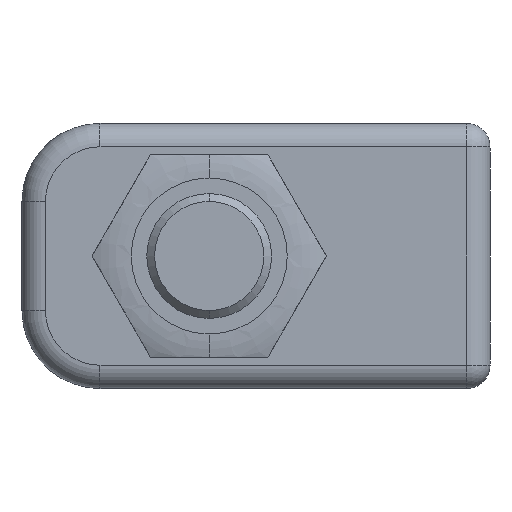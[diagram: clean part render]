
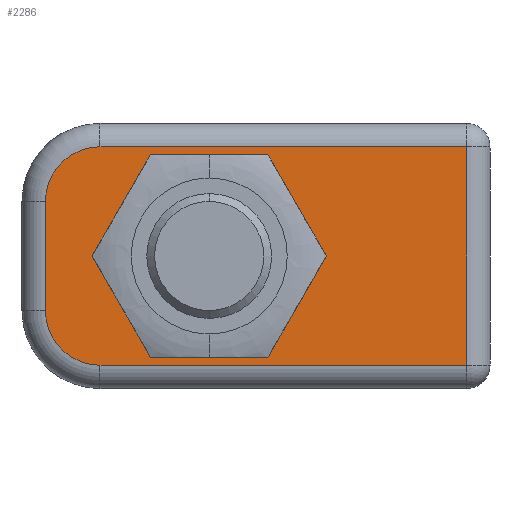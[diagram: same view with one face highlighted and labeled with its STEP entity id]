
A CAD part, front view. The second image highlights one B-rep face of the part: STEP entity #2286.
In plain terms, the highlighted planar face has unit normal (0, -1, 0).
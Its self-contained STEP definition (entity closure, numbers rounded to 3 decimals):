
#82 = DIRECTION ( 'NONE',  ( 0., 0., -1. ) ) ;
#96 = ORIENTED_EDGE ( 'NONE', *, *, #685, .T. ) ;
#108 = CARTESIAN_POINT ( 'NONE',  ( 0., -9.41, 0. ) ) ;
#122 = CIRCLE ( 'NONE', #236, 3.5 ) ;
#231 = DIRECTION ( 'NONE',  ( 0., 0., -1. ) ) ;
#236 = AXIS2_PLACEMENT_3D ( 'NONE', #2130, #2354, #231 ) ;
#313 = DIRECTION ( 'NONE',  ( -1., 0., 0. ) ) ;
#336 = VERTEX_POINT ( 'NONE', #948 ) ;
#355 = ORIENTED_EDGE ( 'NONE', *, *, #1317, .T. ) ;
#459 = DIRECTION ( 'NONE',  ( 1., 0., 0. ) ) ;
#533 = AXIS2_PLACEMENT_3D ( 'NONE', #2698, #1635, #993 ) ;
#578 = ORIENTED_EDGE ( 'NONE', *, *, #768, .T. ) ;
#612 = LINE ( 'NONE', #2369, #2249 ) ;
#649 = VERTEX_POINT ( 'NONE', #952 ) ;
#668 = PLANE ( 'NONE',  #912 ) ;
#685 = EDGE_CURVE ( 'NONE', #1975, #968, #1828, .T. ) ;
#698 = EDGE_LOOP ( 'NONE', ( #1771, #96 ) ) ;
#738 = CARTESIAN_POINT ( 'NONE',  ( 0., -9.41, 0. ) ) ;
#756 = EDGE_CURVE ( 'NONE', #1055, #1542, #1858, .T. ) ;
#768 = EDGE_CURVE ( 'NONE', #336, #649, #880, .T. ) ;
#880 = CIRCLE ( 'NONE', #533, 3.5 ) ;
#912 = AXIS2_PLACEMENT_3D ( 'NONE', #1968, #1090, #2617 ) ;
#921 = DIRECTION ( 'NONE',  ( 0., 1., 0. ) ) ;
#948 = CARTESIAN_POINT ( 'NONE',  ( -10.5, -9.41, -3.5 ) ) ;
#952 = CARTESIAN_POINT ( 'NONE',  ( -7., -9.41, -7. ) ) ;
#963 = VERTEX_POINT ( 'NONE', #2712 ) ;
#968 = VERTEX_POINT ( 'NONE', #1662 ) ;
#993 = DIRECTION ( 'NONE',  ( 0., 0., -1. ) ) ;
#1055 = VERTEX_POINT ( 'NONE', #1491 ) ;
#1059 = AXIS2_PLACEMENT_3D ( 'NONE', #738, #921, #82 ) ;
#1090 = DIRECTION ( 'NONE',  ( 0., -1., 0. ) ) ;
#1191 = VERTEX_POINT ( 'NONE', #2600 ) ;
#1192 = EDGE_CURVE ( 'NONE', #1542, #1191, #122, .T. ) ;
#1230 = VECTOR ( 'NONE', #313, 1000. ) ;
#1242 = ORIENTED_EDGE ( 'NONE', *, *, #756, .T. ) ;
#1317 = EDGE_CURVE ( 'NONE', #1191, #336, #2215, .T. ) ;
#1357 = CARTESIAN_POINT ( 'NONE',  ( -7., -9.41, 7. ) ) ;
#1491 = CARTESIAN_POINT ( 'NONE',  ( 16.5, -9.41, 7. ) ) ;
#1542 = VERTEX_POINT ( 'NONE', #2660 ) ;
#1569 = DIRECTION ( 'NONE',  ( 0., 0., -1. ) ) ;
#1603 = VECTOR ( 'NONE', #1748, 1000. ) ;
#1630 = VECTOR ( 'NONE', #1569, 1000. ) ;
#1635 = DIRECTION ( 'NONE',  ( 0., -1., 0. ) ) ;
#1657 = EDGE_CURVE ( 'NONE', #649, #963, #612, .T. ) ;
#1662 = CARTESIAN_POINT ( 'NONE',  ( 0., -9.41, -6. ) ) ;
#1697 = ORIENTED_EDGE ( 'NONE', *, *, #1192, .T. ) ;
#1704 = CARTESIAN_POINT ( 'NONE',  ( 0., -9.41, 6. ) ) ;
#1723 = EDGE_CURVE ( 'NONE', #963, #1055, #2412, .T. ) ;
#1748 = DIRECTION ( 'NONE',  ( 0., 0., 1. ) ) ;
#1771 = ORIENTED_EDGE ( 'NONE', *, *, #2623, .T. ) ;
#1828 = CIRCLE ( 'NONE', #1059, 6. ) ;
#1839 = ORIENTED_EDGE ( 'NONE', *, *, #1723, .T. ) ;
#1858 = LINE ( 'NONE', #1357, #1230 ) ;
#1962 = ORIENTED_EDGE ( 'NONE', *, *, #1657, .T. ) ;
#1968 = CARTESIAN_POINT ( 'NONE',  ( 16.5, -9.41, 7. ) ) ;
#1975 = VERTEX_POINT ( 'NONE', #1704 ) ;
#1979 = DIRECTION ( 'NONE',  ( 0., 0., -1. ) ) ;
#2094 = EDGE_LOOP ( 'NONE', ( #578, #1962, #1839, #1242, #1697, #355 ) ) ;
#2130 = CARTESIAN_POINT ( 'NONE',  ( -7., -9.41, 3.5 ) ) ;
#2185 = FACE_OUTER_BOUND ( 'NONE', #2094, .T. ) ;
#2199 = CARTESIAN_POINT ( 'NONE',  ( 16.5, -9.41, 7. ) ) ;
#2215 = LINE ( 'NONE', #2708, #1630 ) ;
#2249 = VECTOR ( 'NONE', #459, 1000. ) ;
#2286 = ADVANCED_FACE ( 'NONE', ( #2185, #2551 ), #668, .T. ) ;
#2354 = DIRECTION ( 'NONE',  ( 0., -1., 0. ) ) ;
#2369 = CARTESIAN_POINT ( 'NONE',  ( 16.5, -9.41, -7. ) ) ;
#2412 = LINE ( 'NONE', #2199, #1603 ) ;
#2417 = DIRECTION ( 'NONE',  ( 0., 1., 0. ) ) ;
#2551 = FACE_BOUND ( 'NONE', #698, .T. ) ;
#2600 = CARTESIAN_POINT ( 'NONE',  ( -10.5, -9.41, 3.5 ) ) ;
#2617 = DIRECTION ( 'NONE',  ( 0., 0., -1. ) ) ;
#2623 = EDGE_CURVE ( 'NONE', #968, #1975, #2652, .T. ) ;
#2644 = AXIS2_PLACEMENT_3D ( 'NONE', #108, #2417, #1979 ) ;
#2652 = CIRCLE ( 'NONE', #2644, 6. ) ;
#2660 = CARTESIAN_POINT ( 'NONE',  ( -7., -9.41, 7. ) ) ;
#2698 = CARTESIAN_POINT ( 'NONE',  ( -7., -9.41, -3.5 ) ) ;
#2708 = CARTESIAN_POINT ( 'NONE',  ( -10.5, -9.41, -3.5 ) ) ;
#2712 = CARTESIAN_POINT ( 'NONE',  ( 16.5, -9.41, -7. ) ) ;
